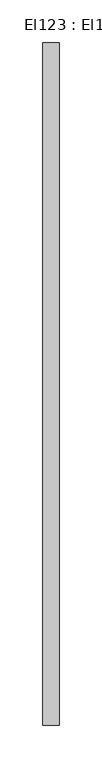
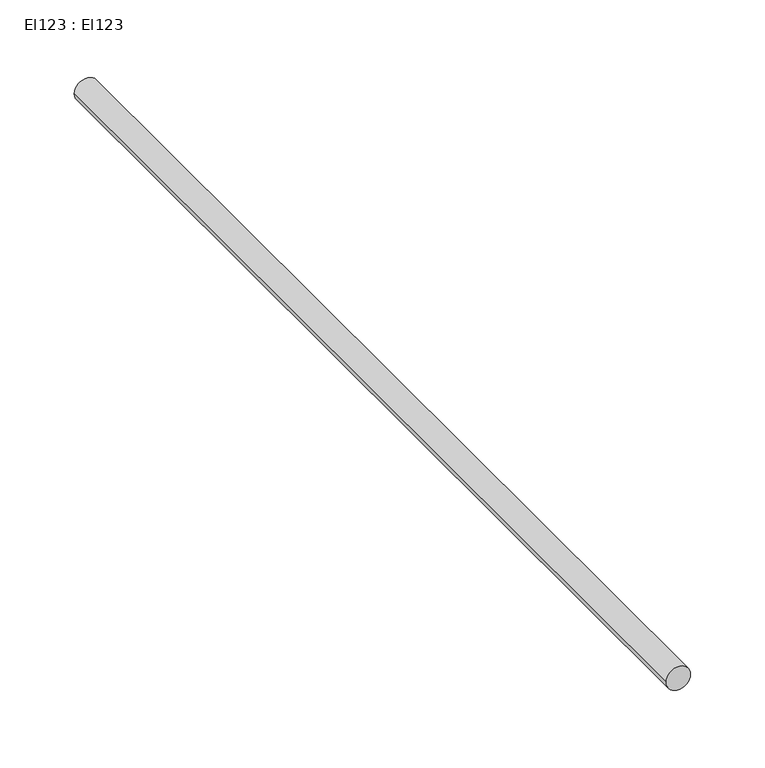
"""IFC4 building model written with IfcOpenShell, lengths in millimetres: cable carrier segment geometry, El123 : El123."""

from ifc_helpers import new_model, si_unit, point, frame, frame_2d, origin, place, context, project, spatial, circle_curve, trimmed, segment, composite_curve, outline, extrude, source, transform, mapped, element, save


def el123_el123_c3cbdd22(model_context):
    return source(origin(), model_context, "Body", "SweptSolid", [
        extrude(outline(composite_curve([segment(trimmed(circle_curve(frame_2d((300.0, 32630.0)), 9.5), [point((300.0, 32620.5))], [point((300.0, 32639.5))], False, "CARTESIAN"), True, "CONTINUOUS"), segment(trimmed(circle_curve(frame_2d((300.0, 32630.0)), 9.5), [point((300.0, 32639.5))], [point((300.0, 32620.5))], False, "CARTESIAN"), True, "CONTINUOUS")], self_intersect=False)), frame((0.0, 10947.74, 0.0), z_axis=(0.0, 1.0, 0.0), x_axis=(0.0, 0.0, 1.0)), (0.0, 0.0, 1.0), 797.719),
    ])


if __name__ == "__main__":
    model = new_model("IFC4")
    model_context = context("Model", 3, world=origin())
    ifc_project = project(units=[si_unit("LENGTHUNIT", "METRE", prefix="MILLI")], contexts=[model_context])
    site = spatial("IfcSite", under=ifc_project)
    building = spatial("IfcBuilding", under=site)
    placement = place(None, origin())
    el123_el123_shape = el123_el123_c3cbdd22(model_context)
    element("IfcCableCarrierSegment", 1, ObjectType="El123 : El123", at=placement, inside=building, context=model_context, shape_type="MappedRepresentation", body=[
        mapped(el123_el123_shape, transform((0.0, 0.0, 0.0), x_axis=(1.0, 0.0, 0.0), y_axis=(0.0, 1.0, 0.0), z_axis=(0.0, 0.0, 1.0))),
    ])
    save(model, "model.ifc")
